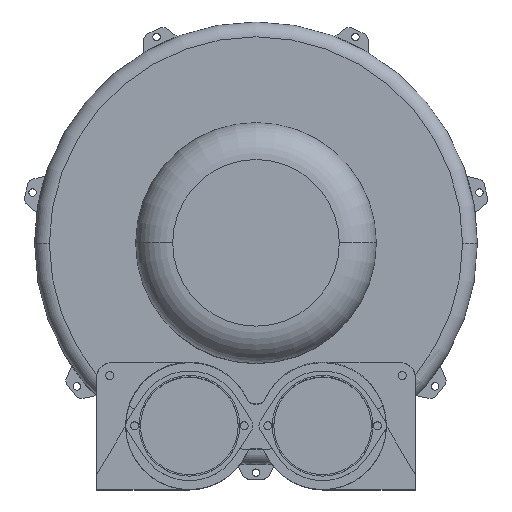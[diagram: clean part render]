
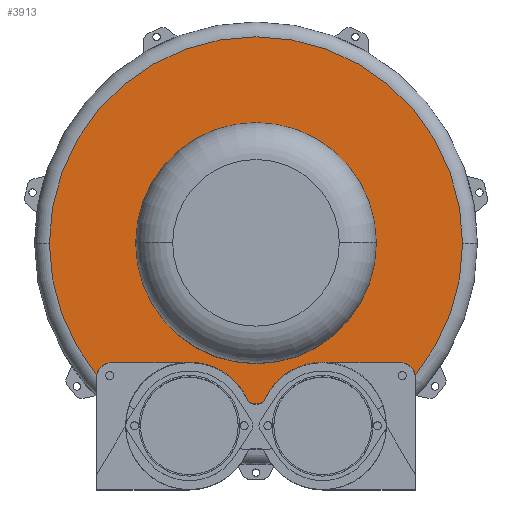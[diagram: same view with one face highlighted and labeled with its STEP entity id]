
A CAD part, top view. The second image highlights one B-rep face of the part: STEP entity #3913.
In plain terms, the highlighted planar face has unit normal (0, 0, 1).
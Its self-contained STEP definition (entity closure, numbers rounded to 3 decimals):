
#32 = AXIS2_PLACEMENT_3D ( 'NONE', #2156, #5236, #3971 ) ;
#41 = AXIS2_PLACEMENT_3D ( 'NONE', #3528, #907, #3987 ) ;
#56 = VERTEX_POINT ( 'NONE', #4122 ) ;
#77 = AXIS2_PLACEMENT_3D ( 'NONE', #3467, #850, #3929 ) ;
#79 = AXIS2_PLACEMENT_3D ( 'NONE', #1769, #4853, #2193 ) ;
#124 = ORIENTED_EDGE ( 'NONE', *, *, #725, .F. ) ;
#187 = AXIS2_PLACEMENT_3D ( 'NONE', #2395, #5466, #2835 ) ;
#203 = VECTOR ( 'NONE', #3780, 1000. ) ;
#227 = EDGE_CURVE ( 'NONE', #3658, #56, #4748, .T. ) ;
#328 = EDGE_CURVE ( 'NONE', #1293, #1107, #2107, .T. ) ;
#343 = EDGE_LOOP ( 'NONE', ( #3353, #2509 ) ) ;
#402 = EDGE_CURVE ( 'NONE', #4144, #1293, #5346, .T. ) ;
#411 = EDGE_CURVE ( 'NONE', #4144, #2714, #3000, .T. ) ;
#416 = AXIS2_PLACEMENT_3D ( 'NONE', #3047, #3949, #1308 ) ;
#489 = AXIS2_PLACEMENT_3D ( 'NONE', #4373, #1738, #4815 ) ;
#531 = EDGE_CURVE ( 'NONE', #1580, #2730, #3484, .T. ) ;
#569 = EDGE_CURVE ( 'NONE', #2262, #2730, #4551, .T. ) ;
#597 = AXIS2_PLACEMENT_3D ( 'NONE', #1334, #4431, #1783 ) ;
#642 = EDGE_CURVE ( 'NONE', #5150, #2262, #5271, .T. ) ;
#664 = EDGE_CURVE ( 'NONE', #3768, #5150, #4145, .T. ) ;
#691 = EDGE_CURVE ( 'NONE', #2112, #3768, #746, .T. ) ;
#716 = AXIS2_PLACEMENT_3D ( 'NONE', #2044, #5122, #2483 ) ;
#725 = EDGE_CURVE ( 'NONE', #3775, #2112, #1785, .T. ) ;
#746 = CIRCLE ( 'NONE', #32, 10. ) ;
#770 = CARTESIAN_POINT ( 'NONE',  ( 0., 0., 96.5 ) ) ;
#800 = AXIS2_PLACEMENT_3D ( 'NONE', #5039, #2389, #5462 ) ;
#806 = EDGE_CURVE ( 'NONE', #3426, #3775, #2379, .T. ) ;
#829 = CARTESIAN_POINT ( 'NONE',  ( -90., -161., 96.5 ) ) ;
#846 = EDGE_CURVE ( 'NONE', #1107, #3426, #3564, .T. ) ;
#850 = DIRECTION ( 'NONE',  ( 0., 0., 1. ) ) ;
#907 = DIRECTION ( 'NONE',  ( 0., 0., 1. ) ) ;
#964 = VECTOR ( 'NONE', #4648, 1000. ) ;
#1056 = CARTESIAN_POINT ( 'NONE',  ( 2.73, -217., 96.5 ) ) ;
#1107 = VERTEX_POINT ( 'NONE', #2030 ) ;
#1134 = ORIENTED_EDGE ( 'NONE', *, *, #328, .F. ) ;
#1137 = EDGE_CURVE ( 'NONE', #56, #3658, #5266, .T. ) ;
#1196 = ORIENTED_EDGE ( 'NONE', *, *, #569, .F. ) ;
#1211 = DIRECTION ( 'NONE',  ( 1., 0., 0. ) ) ;
#1293 = VERTEX_POINT ( 'NONE', #4703 ) ;
#1308 = DIRECTION ( 'NONE',  ( 1., 0., 0. ) ) ;
#1326 = EDGE_CURVE ( 'NONE', #2714, #1580, #3282, .T. ) ;
#1334 = CARTESIAN_POINT ( 'NONE',  ( -195., -181., 96.5 ) ) ;
#1561 = CARTESIAN_POINT ( 'NONE',  ( 195., -161., 96.5 ) ) ;
#1564 = CARTESIAN_POINT ( 'NONE',  ( -90., -161., 96.5 ) ) ;
#1580 = VERTEX_POINT ( 'NONE', #4414 ) ;
#1736 = PLANE ( 'NONE',  #416 ) ;
#1738 = DIRECTION ( 'NONE',  ( 0., 0., 1. ) ) ;
#1769 = CARTESIAN_POINT ( 'NONE',  ( 195., -181., 96.5 ) ) ;
#1783 = DIRECTION ( 'NONE',  ( 1., 0., 0. ) ) ;
#1785 = LINE ( 'NONE', #4374, #203 ) ;
#1865 = ORIENTED_EDGE ( 'NONE', *, *, #1326, .T. ) ;
#1935 = ORIENTED_EDGE ( 'NONE', *, *, #531, .T. ) ;
#2030 = CARTESIAN_POINT ( 'NONE',  ( 90., -161., 96.5 ) ) ;
#2044 = CARTESIAN_POINT ( 'NONE',  ( 2.73, -207., 96.5 ) ) ;
#2072 = FACE_OUTER_BOUND ( 'NONE', #2425, .T. ) ;
#2097 = ORIENTED_EDGE ( 'NONE', *, *, #664, .F. ) ;
#2107 = LINE ( 'NONE', #1561, #964 ) ;
#2112 = VERTEX_POINT ( 'NONE', #4367 ) ;
#2156 = CARTESIAN_POINT ( 'NONE',  ( -2.73, -207., 96.5 ) ) ;
#2193 = DIRECTION ( 'NONE',  ( 1., 0., 0. ) ) ;
#2194 = AXIS2_PLACEMENT_3D ( 'NONE', #5148, #2505, #5577 ) ;
#2262 = VERTEX_POINT ( 'NONE', #4757 ) ;
#2379 = CIRCLE ( 'NONE', #716, 10. ) ;
#2389 = DIRECTION ( 'NONE',  ( 0., 0., 1. ) ) ;
#2395 = CARTESIAN_POINT ( 'NONE',  ( 0., 0., 96.5 ) ) ;
#2425 = EDGE_LOOP ( 'NONE', ( #1134, #4492, #4738, #1865, #1935, #1196, #2936, #2097, #3194, #124, #5017, #5374 ) ) ;
#2483 = DIRECTION ( 'NONE',  ( 1., 0., 0. ) ) ;
#2505 = DIRECTION ( 'NONE',  ( 0., 0., 1. ) ) ;
#2509 = ORIENTED_EDGE ( 'NONE', *, *, #1137, .F. ) ;
#2559 = DIRECTION ( 'NONE',  ( -1., 0., 0. ) ) ;
#2714 = VERTEX_POINT ( 'NONE', #5020 ) ;
#2730 = VERTEX_POINT ( 'NONE', #2825 ) ;
#2825 = CARTESIAN_POINT ( 'NONE',  ( -214.784, -178.07, 96.5 ) ) ;
#2835 = DIRECTION ( 'NONE',  ( 1., 0., 0. ) ) ;
#2932 = VECTOR ( 'NONE', #2559, 1000. ) ;
#2936 = ORIENTED_EDGE ( 'NONE', *, *, #642, .F. ) ;
#3000 = CIRCLE ( 'NONE', #41, 279. ) ;
#3047 = CARTESIAN_POINT ( 'NONE',  ( 0., 0., 96.5 ) ) ;
#3141 = CARTESIAN_POINT ( 'NONE',  ( -162.5, 0., 96.5 ) ) ;
#3194 = ORIENTED_EDGE ( 'NONE', *, *, #691, .F. ) ;
#3244 = CARTESIAN_POINT ( 'NONE',  ( -11.821, -211.167, 96.5 ) ) ;
#3257 = FACE_BOUND ( 'NONE', #343, .T. ) ;
#3282 = CIRCLE ( 'NONE', #3897, 279. ) ;
#3353 = ORIENTED_EDGE ( 'NONE', *, *, #227, .F. ) ;
#3426 = VERTEX_POINT ( 'NONE', #4080 ) ;
#3467 = CARTESIAN_POINT ( 'NONE',  ( -90., -247., 96.5 ) ) ;
#3484 = CIRCLE ( 'NONE', #489, 279. ) ;
#3528 = CARTESIAN_POINT ( 'NONE',  ( 0., 0., 96.5 ) ) ;
#3564 = CIRCLE ( 'NONE', #800, 86. ) ;
#3658 = VERTEX_POINT ( 'NONE', #3141 ) ;
#3768 = VERTEX_POINT ( 'NONE', #3244 ) ;
#3775 = VERTEX_POINT ( 'NONE', #1056 ) ;
#3780 = DIRECTION ( 'NONE',  ( -1., 0., 0. ) ) ;
#3848 = DIRECTION ( 'NONE',  ( 0., 0., 1. ) ) ;
#3897 = AXIS2_PLACEMENT_3D ( 'NONE', #770, #3848, #1211 ) ;
#3913 = ADVANCED_FACE ( 'NONE', ( #3257, #2072 ), #1736, .T. ) ;
#3929 = DIRECTION ( 'NONE',  ( -1., 0., 0. ) ) ;
#3949 = DIRECTION ( 'NONE',  ( 0., 0., 1. ) ) ;
#3971 = DIRECTION ( 'NONE',  ( -1., 0., 0. ) ) ;
#3987 = DIRECTION ( 'NONE',  ( 1., 0., 0. ) ) ;
#4080 = CARTESIAN_POINT ( 'NONE',  ( 11.821, -211.167, 96.5 ) ) ;
#4122 = CARTESIAN_POINT ( 'NONE',  ( 162.5, 0., 96.5 ) ) ;
#4144 = VERTEX_POINT ( 'NONE', #5493 ) ;
#4145 = CIRCLE ( 'NONE', #77, 86. ) ;
#4367 = CARTESIAN_POINT ( 'NONE',  ( -2.73, -217., 96.5 ) ) ;
#4373 = CARTESIAN_POINT ( 'NONE',  ( 0., 0., 96.5 ) ) ;
#4374 = CARTESIAN_POINT ( 'NONE',  ( 2.73, -217., 96.5 ) ) ;
#4414 = CARTESIAN_POINT ( 'NONE',  ( -279., 0., 96.5 ) ) ;
#4431 = DIRECTION ( 'NONE',  ( 0., 0., 1. ) ) ;
#4492 = ORIENTED_EDGE ( 'NONE', *, *, #402, .F. ) ;
#4551 = CIRCLE ( 'NONE', #597, 20. ) ;
#4648 = DIRECTION ( 'NONE',  ( -1., 0., 0. ) ) ;
#4703 = CARTESIAN_POINT ( 'NONE',  ( 195., -161., 96.5 ) ) ;
#4738 = ORIENTED_EDGE ( 'NONE', *, *, #411, .T. ) ;
#4748 = CIRCLE ( 'NONE', #187, 162.5 ) ;
#4757 = CARTESIAN_POINT ( 'NONE',  ( -195., -161., 96.5 ) ) ;
#4815 = DIRECTION ( 'NONE',  ( 1., 0., 0. ) ) ;
#4853 = DIRECTION ( 'NONE',  ( 0., 0., 1. ) ) ;
#5017 = ORIENTED_EDGE ( 'NONE', *, *, #806, .F. ) ;
#5020 = CARTESIAN_POINT ( 'NONE',  ( 279., 0., 96.5 ) ) ;
#5039 = CARTESIAN_POINT ( 'NONE',  ( 90., -247., 96.5 ) ) ;
#5122 = DIRECTION ( 'NONE',  ( 0., 0., -1. ) ) ;
#5148 = CARTESIAN_POINT ( 'NONE',  ( 0., 0., 96.5 ) ) ;
#5150 = VERTEX_POINT ( 'NONE', #1564 ) ;
#5236 = DIRECTION ( 'NONE',  ( 0., 0., -1. ) ) ;
#5266 = CIRCLE ( 'NONE', #2194, 162.5 ) ;
#5271 = LINE ( 'NONE', #829, #2932 ) ;
#5346 = CIRCLE ( 'NONE', #79, 20. ) ;
#5374 = ORIENTED_EDGE ( 'NONE', *, *, #846, .F. ) ;
#5462 = DIRECTION ( 'NONE',  ( 1., 0., 0. ) ) ;
#5466 = DIRECTION ( 'NONE',  ( 0., 0., 1. ) ) ;
#5493 = CARTESIAN_POINT ( 'NONE',  ( 214.784, -178.07, 96.5 ) ) ;
#5577 = DIRECTION ( 'NONE',  ( 1., 0., 0. ) ) ;
